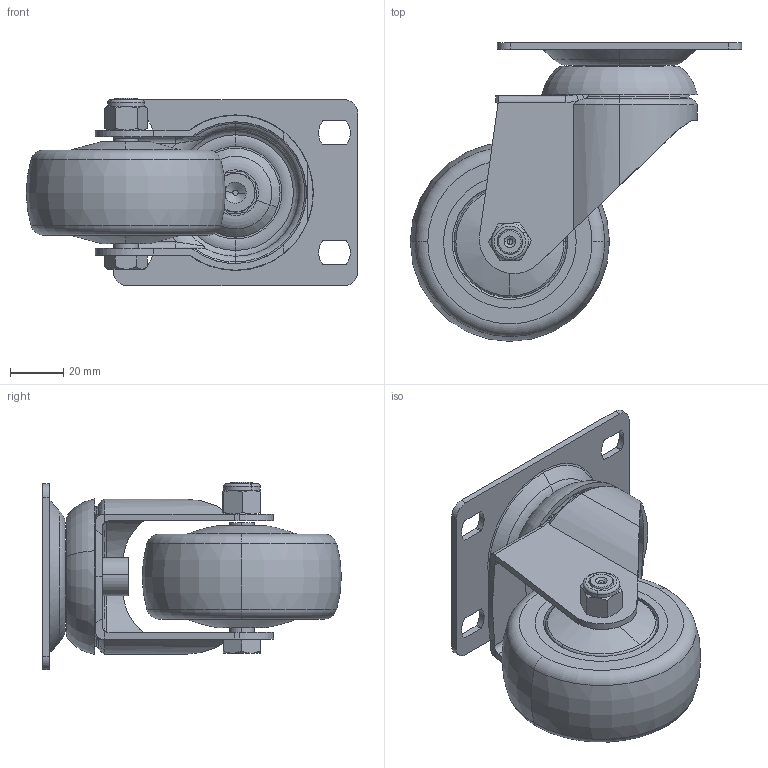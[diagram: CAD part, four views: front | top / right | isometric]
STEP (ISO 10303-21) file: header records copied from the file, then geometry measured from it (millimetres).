
FILE_DESCRIPTION (( 'STEP AP203' ), '1' );
FILE_NAME ('4111603002017-白鐵活動PPR輪(灰紅).STEP', '2025-10-29T01:13:53', ( '' ), ( '' ), 'SwSTEP 2.0', 'SolidWorks 2019', '' );
FILE_SCHEMA (( 'CONFIG_CONTROL_DESIGN' ));
Length unit declared in the file: metre
Products named in the file (1): 4111603002017-白鐵活動PPR輪(灰紅)
Bounding box: 124.8 x 112.5 x 70.5 mm (x, y, z)
Surface area: 60135.7 mm2 (no closed solid volume)
Topology: 0 solids, 16 shells, 237 faces, 639 edges, 418 vertices
Faces by surface type: torus 72, cylinder 72, plane 63, cone 15, bspline 9, sphere 6
Entity records: 8049 total; most frequent: CARTESIAN_POINT 1970, DIRECTION 1362, ORIENTED_EDGE 1154, EDGE_CURVE 639, AXIS2_PLACEMENT_3D 574, VERTEX_POINT 418, CIRCLE 345, EDGE_LOOP 267
